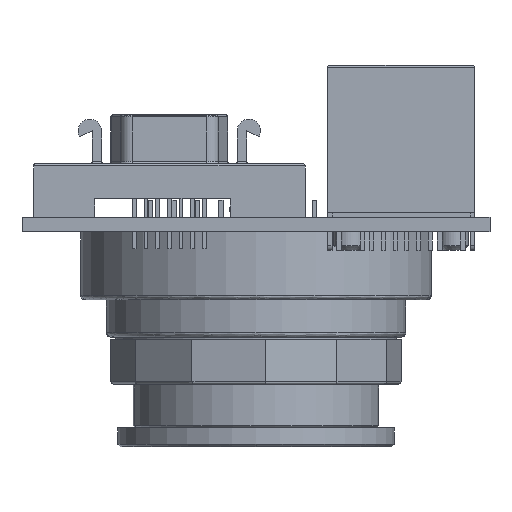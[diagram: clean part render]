
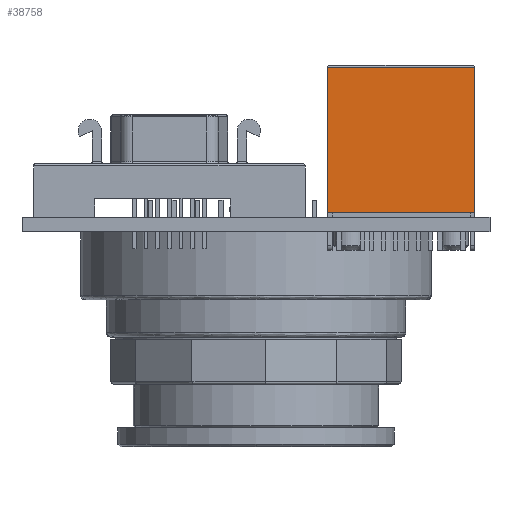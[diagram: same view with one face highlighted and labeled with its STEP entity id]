
A CAD part, front view. The second image highlights one B-rep face of the part: STEP entity #38758.
In plain terms, the highlighted planar face has unit normal (0, -1, 0).
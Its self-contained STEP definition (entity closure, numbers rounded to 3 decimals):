
#158 = CARTESIAN_POINT ( 'NONE',  ( 8.001, -6.604, 12.954 ) ) ;
#992 = CARTESIAN_POINT ( 'NONE',  ( -8.001, -6.604, 15.748 ) ) ;
#1059 = DIRECTION ( 'NONE',  ( 1., 0., 0. ) ) ;
#1178 = CARTESIAN_POINT ( 'NONE',  ( -8.001, -6.604, 15.748 ) ) ;
#2651 = VERTEX_POINT ( 'NONE', #33192 ) ;
#3878 = EDGE_CURVE ( 'NONE', #20889, #16337, #33903, .T. ) ;
#4640 = VECTOR ( 'NONE', #45622, 1000. ) ;
#5380 = VECTOR ( 'NONE', #8865, 1000. ) ;
#6636 = LINE ( 'NONE', #44587, #5380 ) ;
#7434 = PLANE ( 'NONE',  #9819 ) ;
#8865 = DIRECTION ( 'NONE',  ( 1., 0., 0. ) ) ;
#9819 = AXIS2_PLACEMENT_3D ( 'NONE', #47311, #23908, #50913 ) ;
#10095 = VECTOR ( 'NONE', #45326, 1000. ) ;
#14029 = EDGE_CURVE ( 'NONE', #16337, #2651, #20890, .T. ) ;
#16337 = VERTEX_POINT ( 'NONE', #29727 ) ;
#19057 = FACE_OUTER_BOUND ( 'NONE', #39508, .T. ) ;
#19880 = ORIENTED_EDGE ( 'NONE', *, *, #41251, .T. ) ;
#20889 = VERTEX_POINT ( 'NONE', #992 ) ;
#20890 = LINE ( 'NONE', #158, #10095 ) ;
#23735 = EDGE_CURVE ( 'NONE', #20889, #38662, #46953, .T. ) ;
#23908 = DIRECTION ( 'NONE',  ( 0., 1., 0. ) ) ;
#29727 = CARTESIAN_POINT ( 'NONE',  ( 8.001, -6.604, 15.748 ) ) ;
#33192 = CARTESIAN_POINT ( 'NONE',  ( 8.001, -6.604, 0. ) ) ;
#33903 = LINE ( 'NONE', #1178, #35698 ) ;
#35698 = VECTOR ( 'NONE', #1059, 1000. ) ;
#38662 = VERTEX_POINT ( 'NONE', #46713 ) ;
#38758 = ADVANCED_FACE ( 'NONE', ( #19057 ), #7434, .F. ) ;
#39508 = EDGE_LOOP ( 'NONE', ( #39926, #47926, #19880, #46543 ) ) ;
#39926 = ORIENTED_EDGE ( 'NONE', *, *, #3878, .F. ) ;
#41251 = EDGE_CURVE ( 'NONE', #38662, #2651, #6636, .T. ) ;
#44587 = CARTESIAN_POINT ( 'NONE',  ( -8.001, -6.604, 0. ) ) ;
#45326 = DIRECTION ( 'NONE',  ( 0., 0., -1. ) ) ;
#45622 = DIRECTION ( 'NONE',  ( 0., 0., -1. ) ) ;
#45726 = CARTESIAN_POINT ( 'NONE',  ( -8.001, -6.604, 12.954 ) ) ;
#46543 = ORIENTED_EDGE ( 'NONE', *, *, #14029, .F. ) ;
#46713 = CARTESIAN_POINT ( 'NONE',  ( -8.001, -6.604, 0. ) ) ;
#46953 = LINE ( 'NONE', #45726, #4640 ) ;
#47311 = CARTESIAN_POINT ( 'NONE',  ( -8.001, -6.604, 12.954 ) ) ;
#47926 = ORIENTED_EDGE ( 'NONE', *, *, #23735, .T. ) ;
#50913 = DIRECTION ( 'NONE',  ( -1., 0., 0. ) ) ;
